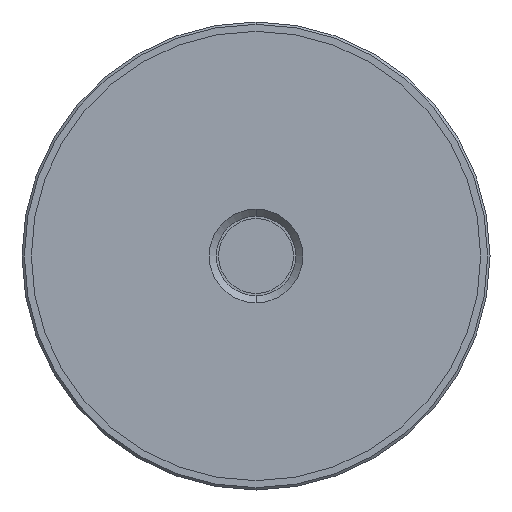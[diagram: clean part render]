
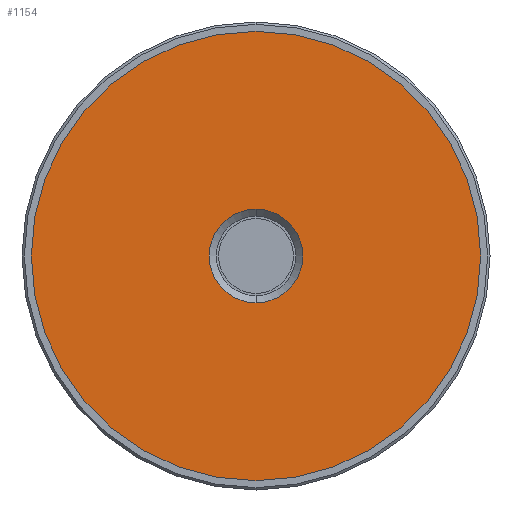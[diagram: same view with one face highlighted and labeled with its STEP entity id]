
A CAD part, front view. The second image highlights one B-rep face of the part: STEP entity #1154.
In plain terms, the highlighted planar face has unit normal (0, -1, 0).
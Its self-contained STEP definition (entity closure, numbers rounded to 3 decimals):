
#81 = ORIENTED_EDGE ( 'NONE', *, *, #566, .T. ) ;
#87 = CARTESIAN_POINT ( 'NONE',  ( 0., -1.5, 0. ) ) ;
#131 = CARTESIAN_POINT ( 'NONE',  ( 0., -1.5, 48. ) ) ;
#187 = CARTESIAN_POINT ( 'NONE',  ( 0., -1.5, 0. ) ) ;
#188 = CIRCLE ( 'NONE', #450, 10. ) ;
#241 = CARTESIAN_POINT ( 'NONE',  ( 0., -1.5, -10. ) ) ;
#254 = CIRCLE ( 'NONE', #653, 48. ) ;
#258 = DIRECTION ( 'NONE',  ( 0., -1., 0. ) ) ;
#293 = VERTEX_POINT ( 'NONE', #510 ) ;
#339 = AXIS2_PLACEMENT_3D ( 'NONE', #187, #462, #1061 ) ;
#349 = DIRECTION ( 'NONE',  ( 0., 0., -1. ) ) ;
#380 = AXIS2_PLACEMENT_3D ( 'NONE', #131, #258, #349 ) ;
#443 = CIRCLE ( 'NONE', #339, 10. ) ;
#450 = AXIS2_PLACEMENT_3D ( 'NONE', #452, #1150, #560 ) ;
#452 = CARTESIAN_POINT ( 'NONE',  ( 0., -1.5, 0. ) ) ;
#462 = DIRECTION ( 'NONE',  ( 0., 1., 0. ) ) ;
#477 = CARTESIAN_POINT ( 'NONE',  ( 0., -1.5, 0. ) ) ;
#486 = CARTESIAN_POINT ( 'NONE',  ( 0., -1.5, -48. ) ) ;
#502 = VERTEX_POINT ( 'NONE', #743 ) ;
#510 = CARTESIAN_POINT ( 'NONE',  ( 0., -1.5, 10. ) ) ;
#554 = EDGE_CURVE ( 'NONE', #293, #1110, #188, .T. ) ;
#560 = DIRECTION ( 'NONE',  ( 0., 0., -1. ) ) ;
#566 = EDGE_CURVE ( 'NONE', #1110, #293, #443, .T. ) ;
#573 = CIRCLE ( 'NONE', #1178, 48. ) ;
#595 = ORIENTED_EDGE ( 'NONE', *, *, #554, .T. ) ;
#607 = PLANE ( 'NONE',  #380 ) ;
#617 = EDGE_CURVE ( 'NONE', #502, #1220, #254, .T. ) ;
#653 = AXIS2_PLACEMENT_3D ( 'NONE', #87, #881, #1058 ) ;
#659 = EDGE_CURVE ( 'NONE', #1220, #502, #573, .T. ) ;
#669 = DIRECTION ( 'NONE',  ( 0., 1., 0. ) ) ;
#670 = EDGE_LOOP ( 'NONE', ( #81, #595 ) ) ;
#743 = CARTESIAN_POINT ( 'NONE',  ( 0., -1.5, 48. ) ) ;
#831 = ORIENTED_EDGE ( 'NONE', *, *, #617, .F. ) ;
#858 = FACE_BOUND ( 'NONE', #670, .T. ) ;
#881 = DIRECTION ( 'NONE',  ( 0., 1., 0. ) ) ;
#1058 = DIRECTION ( 'NONE',  ( 0., 0., 1. ) ) ;
#1061 = DIRECTION ( 'NONE',  ( 0., 0., -1. ) ) ;
#1066 = FACE_OUTER_BOUND ( 'NONE', #1226, .T. ) ;
#1110 = VERTEX_POINT ( 'NONE', #241 ) ;
#1125 = ORIENTED_EDGE ( 'NONE', *, *, #659, .F. ) ;
#1150 = DIRECTION ( 'NONE',  ( 0., 1., 0. ) ) ;
#1154 = ADVANCED_FACE ( 'NONE', ( #858, #1066 ), #607, .T. ) ;
#1161 = DIRECTION ( 'NONE',  ( 0., 0., 1. ) ) ;
#1178 = AXIS2_PLACEMENT_3D ( 'NONE', #477, #669, #1161 ) ;
#1220 = VERTEX_POINT ( 'NONE', #486 ) ;
#1226 = EDGE_LOOP ( 'NONE', ( #831, #1125 ) ) ;
